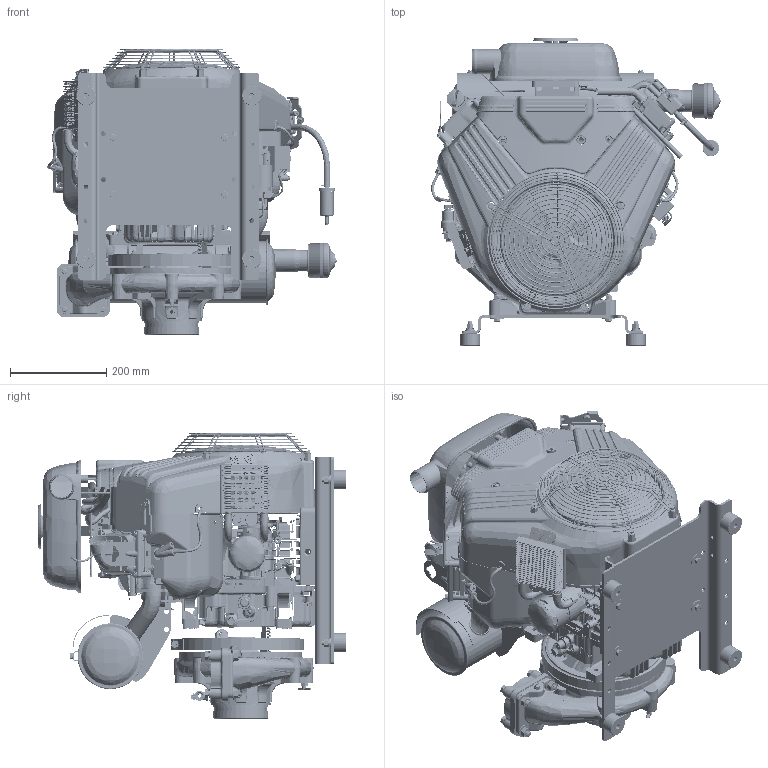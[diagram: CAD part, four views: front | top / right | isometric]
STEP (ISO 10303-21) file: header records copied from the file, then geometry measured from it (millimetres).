
FILE_DESCRIPTION (( 'STEP AP203' ), '1' );
FILE_NAME ('545-5200-00-0 _ HPX275-B35.STEP', '2020-08-31T15:44:09', ( '' ), ( '' ), 'SwSTEP 2.0', 'SolidWorks 2019', '' );
FILE_SCHEMA (( 'CONFIG_CONTROL_DESIGN' ));
Length unit declared in the file: inch
Products named in the file (1): 545-5200-00-0 _ HPX275-B35
Bounding box: 603.24 x 641.2 x 594.82 mm (x, y, z)
Surface area: 3313628.2 mm2 (no closed solid volume)
Topology: 0 solids, 1409 shells, 8137 faces, 40201 edges, 32469 vertices
Faces by surface type: bspline 2464, cylinder 2269, plane 2108, cone 1033, torus 241, sphere 22
Entity records: 762209 total; most frequent: CARTESIAN_POINT 494393, ORIENTED_EDGE 52176, DIRECTION 42791, EDGE_CURVE 40109, VERTEX_POINT 32467, B_SPLINE_CURVE_WITH_KNOTS 16307, AXIS2_PLACEMENT_3D 15262, VECTOR 12267
